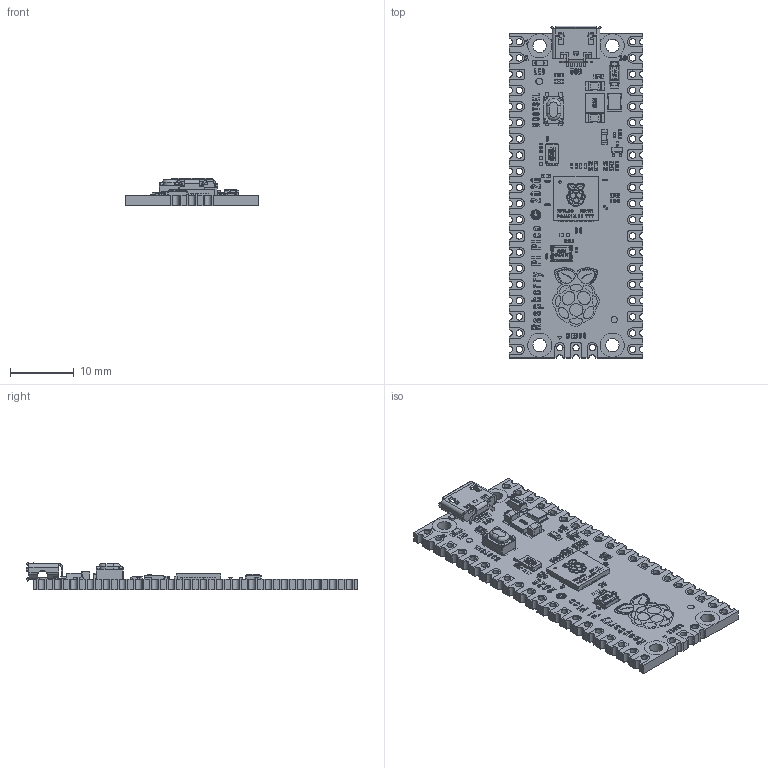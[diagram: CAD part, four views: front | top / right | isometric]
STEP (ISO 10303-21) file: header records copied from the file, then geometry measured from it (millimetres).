
FILE_DESCRIPTION(/* description */ (''),/* implementation_level */ '2;1');
FILE_NAME(/* name */ '/Users/maboy/Downloads/RaspBerryPi Pico.step',/* time_stamp */ '2022-03-31T18:15:06+09:00',/* author */ (''),/* organization */ (''),/* preprocessor_version */ 'ST-DEVELOPER v18.1',/* originating_system */ 'Autodesk Translation Framework v10.14.0.1471',/* authorisation */ '');
FILE_SCHEMA (('AUTOMOTIVE_DESIGN { 1 0 10303 214 3 1 1 }'));
Products named in the file (21): RaspBerryPi Pico; RP2040; BOOTSEL; USB microB; Resistor; R0603; R1005; R1608; RaspberryPi Pico_Solder; Capacitor; C1005; C2012; C0603; Crystal unit; Transistor; RT6150B-33GQW; MBR120VLSFT1G; L2520; LED1608_04; W25Q16JV_UX; RaspBerryPi Pico_CircuitBoard_logo
Assembly tree (46 placements, depth 3):
  RaspBerryPi Pico
    RP2040
    BOOTSEL
    USB microB
    Resistor
      R0603  x2
      R1005  x11
      R1608
    RaspberryPi Pico_Solder
    Capacitor
      C1005  x4
      C0603  x12
      C2012  x2
    Crystal unit
    Transistor
    RT6150B-33GQW
    MBR120VLSFT1G
    L2520
    LED1608_04
    W25Q16JV_UX
    RaspBerryPi Pico_CircuitBoard_logo
Bounding box: 21 x 52.1 x 4.3 mm (x, y, z)
Volume: 1762.6 mm3; surface area: 4554.1 mm2
Topology: 558 solids, 558 shells, 8442 faces, 21001 edges, 13638 vertices
Faces by surface type: plane 4148, bspline 2844, cylinder 1060, torus 228, sphere 162
Full cylindrical faces by diameter (mm): 0.25 x2, 0.3 x28, 0.4 x1, 1 x47, 2.1 x4, 3.8 x8
Entity records: 230207 total; most frequent: CARTESIAN_POINT 82451, ORIENTED_EDGE 33766, DIRECTION 23557, EDGE_CURVE 16883, VERTEX_POINT 10972, LINE 10411, VECTOR 10411, EDGE_LOOP 7043
